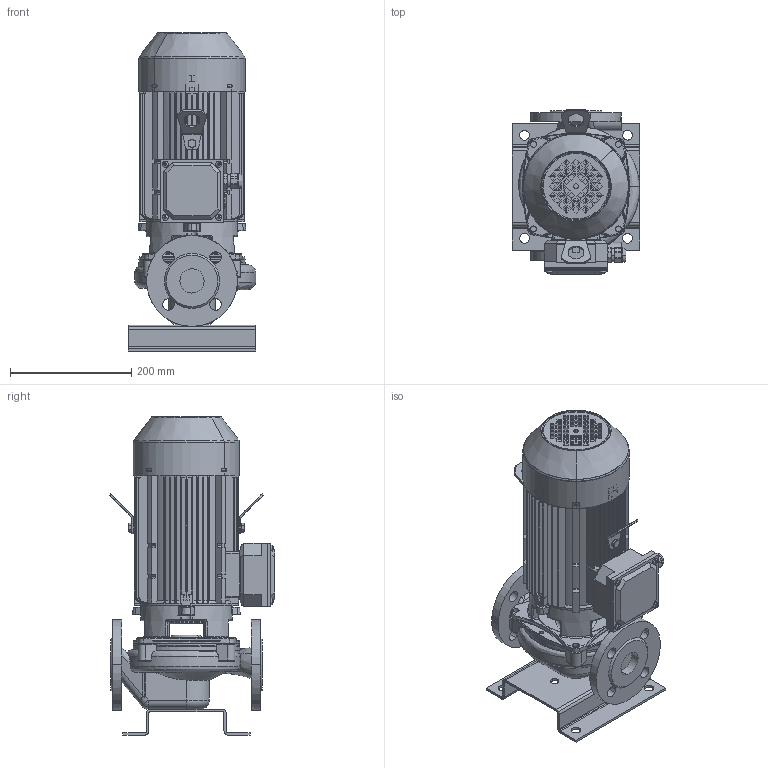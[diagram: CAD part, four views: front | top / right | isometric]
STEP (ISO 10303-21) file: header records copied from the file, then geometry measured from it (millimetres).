
FILE_DESCRIPTION(('STEP AP214'),'1');
FILE_NAME('export.stp','2018-05-29T09:06:18',(' '),(' '),'Spatial InterOp 3D',' ',' ');
FILE_SCHEMA(('AUTOMOTIVE_DESIGN { 1 0 10303 214 1 1 1 1 }'));
Length unit declared in the file: millimetre
Products named in the file (24): W_L40A2150_K90; V_TLAEAP3233L40A; V_PPL40A; 160035; 160008; V_MKP90-1_N13; 160141; 160137; 160138; 160139; 160140; Koura_Ale_M5; Plug_Blind_M20; Sealing_Plug_M20; DIN_7985-M5X8; DIN_7985-M5X12; 480037; 480036___; 480039; 480038___; 160135; 160134; DIN_EN_24017_-_M8_16-Stainless_S; V_JALKA35973
Assembly tree (28 placements, depth 4):
  W_L40A2150_K90
    V_TLAEAP3233L40A
    V_PPL40A
    V_MKP90-1_N13
      160035
        160008
      160141
        160137
        160138
        160139
        160140
        Koura_Ale_M5
        Plug_Blind_M20
        Sealing_Plug_M20
        DIN_7985-M5X8
        DIN_7985-M5X12  x4
      480037
        480036___
      480039
        480038___
      160135
      160134  x2
      DIN_EN_24017_-_M8_16-Stainless_S  x2
    V_JALKA35973
Bounding box: 210 x 272.62 x 525.51 mm (x, y, z)
Volume: 4018034.1 mm3; surface area: 1270551.7 mm2
Topology: 23 solids, 23 shells, 2666 faces, 7075 edges, 4454 vertices
Faces by surface type: plane 1080, cylinder 786, bspline 308, torus 305, cone 171, sphere 16
Entity records: 102069 total; most frequent: CARTESIAN_POINT 36421, ORIENTED_EDGE 13498, DIRECTION 12320, EDGE_CURVE 6749, AXIS2_PLACEMENT_3D 4697, VERTEX_POINT 4276, LINE 2926, VECTOR 2926
